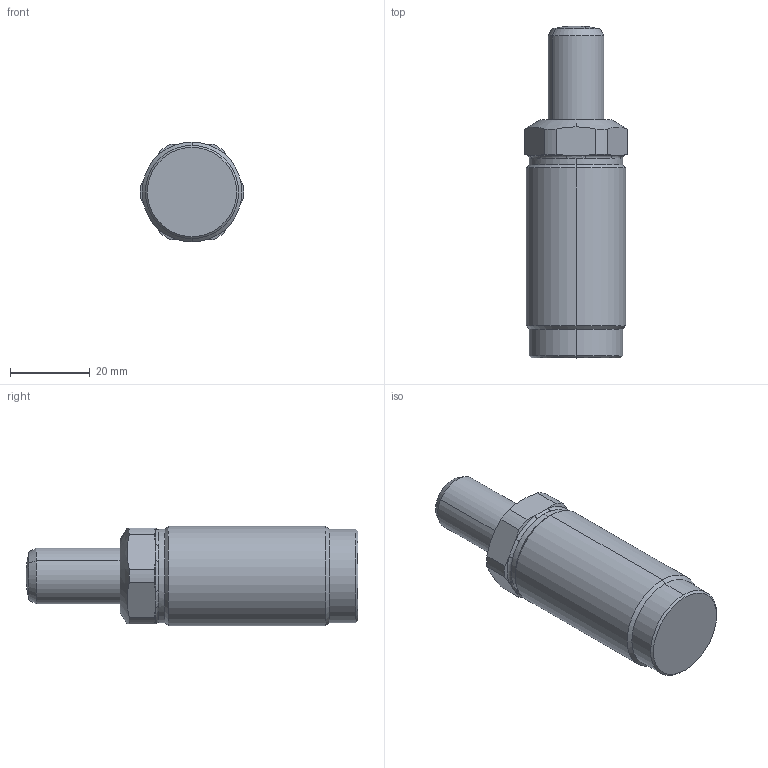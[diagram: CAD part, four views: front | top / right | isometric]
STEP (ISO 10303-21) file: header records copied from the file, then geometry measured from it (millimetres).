
FILE_DESCRIPTION((' '),'2;1');
FILE_NAME( 'CMC04-20R.x_t.stp', '2024-08-27T13:58:38', (' '), ('--- Datakit www.datakit.com---'), ' Datakit CrossCadWare V2024.1 Dec 21 2023', 'Mastercam 2025', ' ');
FILE_SCHEMA(('AUTOMOTIVE_DESIGN { 1 0 10303 214 1 1 1 1 }'));
Length unit declared in the file: millimetre
Products named in the file (1): CMC04-20R
Bounding box: 25.98 x 83 x 25 mm (x, y, z)
Volume: 28711.7 mm3; surface area: 7646.2 mm2
Topology: 2 solids, 2 shells, 56 faces, 133 edges, 80 vertices
Faces by surface type: cone 16, cylinder 16, plane 10, bspline 6, torus 6, sphere 2
Entity records: 2913 total; most frequent: CARTESIAN_POINT 1620, DIRECTION 264, ORIENTED_EDGE 262, EDGE_CURVE 131, AXIS2_PLACEMENT_3D 116, VERTEX_POINT 80, CIRCLE 65, EDGE_LOOP 57
